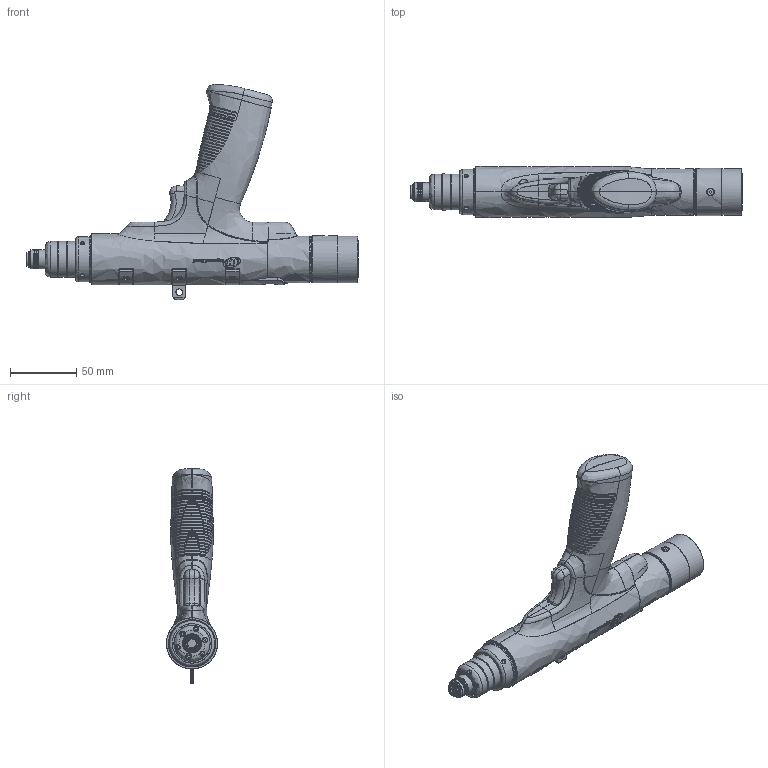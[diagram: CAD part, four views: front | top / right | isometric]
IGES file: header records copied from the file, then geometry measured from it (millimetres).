
Global section: file name: G:\Eng_Shared\PF\SURF MODELS\QE-QM\QE\QE2\Pistol\16610628_A.igs; native system: NX V4.0; preprocessor: UGS NX IGES V4.0; date: 20090218.103837; units: millimetre
Bounding box: 249.79 x 38.44 x 161.88 mm (x, y, z)
Surface area: 57008.1 mm2 (no closed solid volume)
Topology: 0 solids, 0 shells, 1699 faces, 11040 edges, 10808 vertices
Faces by surface type: bspline 1650, offset 49
